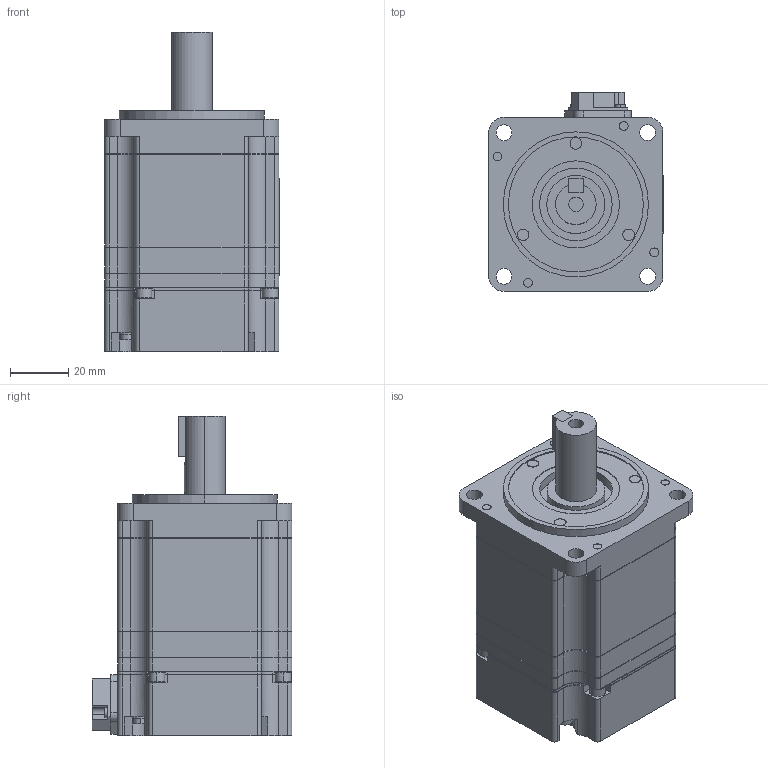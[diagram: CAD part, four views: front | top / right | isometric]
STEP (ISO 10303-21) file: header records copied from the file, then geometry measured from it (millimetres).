
FILE_DESCRIPTION (( 'STEP AP203' ), '1' );
FILE_NAME ('sgmjv_02a3m61.STEP', '2014-08-28T07:00:21', ( '匠エンジニアリング山之内' ), ( 'TAKUMI-Engniaring' ), 'SwSTEP 2.0', 'SolidWorks 2006303', '' );
FILE_SCHEMA (( 'CONFIG_CONTROL_DESIGN' ));
Length unit declared in the file: millimetre
Products named in the file (3): sgmjv_02a3m61; sgmjv_02a3m61_base; sgmjv_02a3m61_key
Assembly tree (2 placements, depth 2):
  sgmjv_02a3m61
    sgmjv_02a3m61_key
    sgmjv_02a3m61_base
Bounding box: 60.1 x 68.8 x 110.1 mm (x, y, z)
Volume: 264910.2 mm3; surface area: 32647.9 mm2
Topology: 2 solids, 2 shells, 507 faces, 1354 edges, 896 vertices
Faces by surface type: plane 284, cylinder 223
Entity records: 16251 total; most frequent: DIRECTION 2831, CARTESIAN_POINT 2808, ORIENTED_EDGE 2708, EDGE_CURVE 1354, AXIS2_PLACEMENT_3D 969, VERTEX_POINT 896, VECTOR 893, LINE 893
